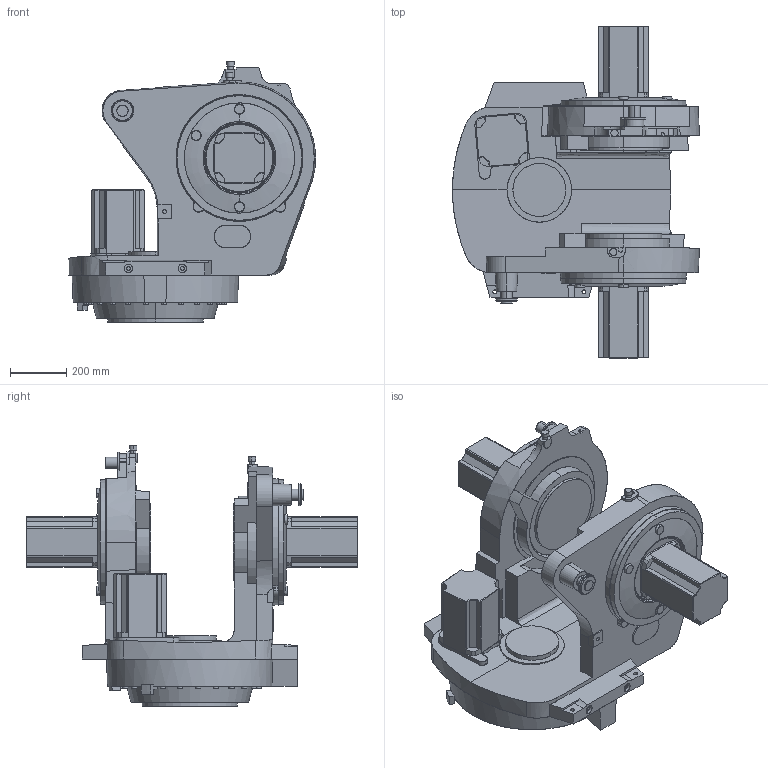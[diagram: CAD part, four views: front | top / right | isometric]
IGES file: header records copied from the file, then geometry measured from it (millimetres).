
Start section: SolidWorks IGES file using analytic representation for surfaces
Global section: file name: C:\Data\Lättmodeller\Nytt\660\IRB660_180-315_IRC5_rev03\IRB660_180-315_IRC5_rev03_IRC5_IGES_j\IRB660_180-315_LINK1_CAD_rev02.IGS; native system: SolidWorks 2014; preprocessor: SolidWorks 2014; author: seadbov; date: 161202.130152; units: millimetre
Bounding box: 881.29 x 1184 x 930.5 mm (x, y, z)
Surface area: 3938888.7 mm2 (no closed solid volume)
Topology: 0 solids, 0 shells, 631 faces, 11337 edges, 11337 vertices
Faces by surface type: bspline 412, revolution 219
